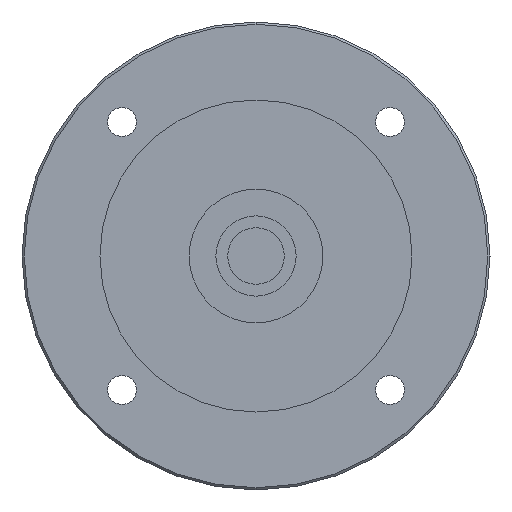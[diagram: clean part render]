
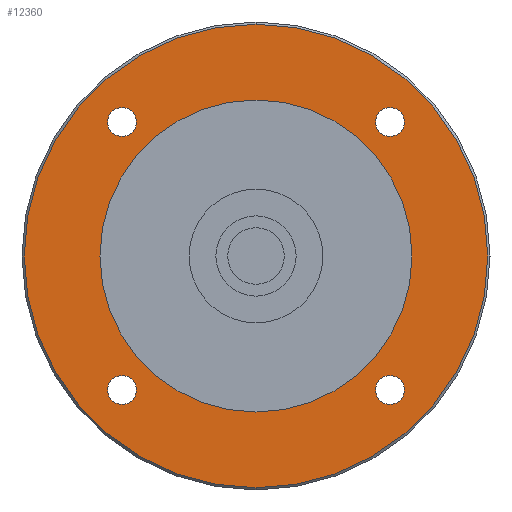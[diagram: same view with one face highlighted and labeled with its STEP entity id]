
A CAD part, left-side view. The second image highlights one B-rep face of the part: STEP entity #12360.
In plain terms, the highlighted planar face has unit normal (-1, 0, 0) as drawn and (0, 0, -1) by its records, which use the part's own axes.
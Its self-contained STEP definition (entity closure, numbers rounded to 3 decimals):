
#11060=CARTESIAN_POINT('',(0.,-35.,-35.5));
#11070=VERTEX_POINT('',#11060);
#11100=CARTESIAN_POINT('',(0.,0.,
-35.5));
#11110=DIRECTION('',(0.,0.,1.));
#11120=DIRECTION('',(1.,0.,0.));
#11130=AXIS2_PLACEMENT_3D('',#11100,#11110,#11120);
#11140=CIRCLE('',#11130,35.);
#11150=CARTESIAN_POINT('',(35.,0.,-35.5));
#11160=VERTEX_POINT('',#11150);
#11170=EDGE_CURVE('',#11070,#11160,#11140,.T.);
#11190=CARTESIAN_POINT('',(0.,35.,-35.5));
#11200=VERTEX_POINT('',#11190);
#11210=EDGE_CURVE('',#11160,#11200,#11140,.T.);
#11340=CARTESIAN_POINT('',(0.,0.,
-35.5));
#11350=DIRECTION('',(0.,0.,-1.));
#11360=DIRECTION('',(0.,-1.,0.));
#11370=AXIS2_PLACEMENT_3D('',#11340,#11350,#11360);
#11380=PLANE('',#11370);
#11390=CARTESIAN_POINT('',(0.,0.,
-35.5));
#11400=DIRECTION('',(0.,0.,-1.));
#11410=DIRECTION('',(0.,-1.,0.));
#11420=AXIS2_PLACEMENT_3D('',#11390,#11400,#11410);
#11430=CIRCLE('',#11420,52.);
#11440=CARTESIAN_POINT('',(0.,-52.,-35.5));
#11450=VERTEX_POINT('',#11440);
#11460=CARTESIAN_POINT('',(0.,52.,-35.5));
#11470=VERTEX_POINT('',#11460);
#11480=EDGE_CURVE('',#11450,#11470,#11430,.T.);
#11490=ORIENTED_EDGE('',*,*,#11480,.T.);
#11500=EDGE_CURVE('',#11470,#11450,#11430,.T.);
#11510=ORIENTED_EDGE('',*,*,#11500,.T.);
#11520=EDGE_LOOP('',(#11510,#11490));
#11530=FACE_OUTER_BOUND('',#11520,.T.);
#11540=CARTESIAN_POINT('',(30.052,-30.052,-35.5));
#11550=DIRECTION('',(0.,0.,-1.));
#11560=DIRECTION('',(1.,0.,0.));
#11570=AXIS2_PLACEMENT_3D('',#11540,#11550,#11560);
#11580=CIRCLE('',#11570,3.25);
#11590=CARTESIAN_POINT('',(33.302,-30.052,-35.5));
#11600=VERTEX_POINT('',#11590);
#11610=CARTESIAN_POINT('',(30.052,-33.302,-35.5));
#11620=VERTEX_POINT('',#11610);
#11630=EDGE_CURVE('',#11600,#11620,#11580,.T.);
#11640=ORIENTED_EDGE('',*,*,#11630,.F.);
#11650=CARTESIAN_POINT('',(30.052,-26.802,-35.5));
#11660=VERTEX_POINT('',#11650);
#11670=EDGE_CURVE('',#11620,#11660,#11580,.T.);
#11680=ORIENTED_EDGE('',*,*,#11670,.F.);
#11690=EDGE_CURVE('',#11660,#11600,#11580,.T.);
#11700=ORIENTED_EDGE('',*,*,#11690,.F.);
#11710=EDGE_LOOP('',(#11700,#11680,#11640));
#11720=FACE_BOUND('',#11710,.T.);
#11730=CARTESIAN_POINT('',(30.052,30.052,-35.5));
#11740=DIRECTION('',(0.,0.,-1.));
#11750=DIRECTION('',(1.,0.,0.));
#11760=AXIS2_PLACEMENT_3D('',#11730,#11740,#11750);
#11770=CIRCLE('',#11760,3.25);
#11780=CARTESIAN_POINT('',(33.302,30.052,-35.5));
#11790=VERTEX_POINT('',#11780);
#11800=CARTESIAN_POINT('',(30.052,26.802,-35.5));
#11810=VERTEX_POINT('',#11800);
#11820=EDGE_CURVE('',#11790,#11810,#11770,.T.);
#11830=ORIENTED_EDGE('',*,*,#11820,.F.);
#11840=CARTESIAN_POINT('',(30.052,33.302,-35.5));
#11850=VERTEX_POINT('',#11840);
#11860=EDGE_CURVE('',#11810,#11850,#11770,.T.);
#11870=ORIENTED_EDGE('',*,*,#11860,.F.);
#11880=EDGE_CURVE('',#11850,#11790,#11770,.T.);
#11890=ORIENTED_EDGE('',*,*,#11880,.F.);
#11900=EDGE_LOOP('',(#11890,#11870,#11830));
#11910=FACE_BOUND('',#11900,.T.);
#11920=CARTESIAN_POINT('',(-30.052,30.052,-35.5));
#11930=DIRECTION('',(0.,0.,-1.));
#11940=DIRECTION('',(1.,0.,0.));
#11950=AXIS2_PLACEMENT_3D('',#11920,#11930,#11940);
#11960=CIRCLE('',#11950,3.25);
#11970=CARTESIAN_POINT('',(-26.802,30.052,-35.5));
#11980=VERTEX_POINT('',#11970);
#11990=CARTESIAN_POINT('',(-30.052,26.802,-35.5));
#12000=VERTEX_POINT('',#11990);
#12010=EDGE_CURVE('',#11980,#12000,#11960,.T.);
#12020=ORIENTED_EDGE('',*,*,#12010,.F.);
#12030=CARTESIAN_POINT('',(-30.052,33.302,-35.5));
#12040=VERTEX_POINT('',#12030);
#12050=EDGE_CURVE('',#12000,#12040,#11960,.T.);
#12060=ORIENTED_EDGE('',*,*,#12050,.F.);
#12070=EDGE_CURVE('',#12040,#11980,#11960,.T.);
#12080=ORIENTED_EDGE('',*,*,#12070,.F.);
#12090=EDGE_LOOP('',(#12080,#12060,#12020));
#12100=FACE_BOUND('',#12090,.T.);
#12110=CARTESIAN_POINT('',(-30.052,-30.052,-35.5));
#12120=DIRECTION('',(0.,0.,-1.));
#12130=DIRECTION('',(1.,0.,0.));
#12140=AXIS2_PLACEMENT_3D('',#12110,#12120,#12130);
#12150=CIRCLE('',#12140,3.25);
#12160=CARTESIAN_POINT('',(-26.802,-30.052,-35.5));
#12170=VERTEX_POINT('',#12160);
#12180=CARTESIAN_POINT('',(-30.052,-33.302,-35.5));
#12190=VERTEX_POINT('',#12180);
#12200=EDGE_CURVE('',#12170,#12190,#12150,.T.);
#12210=ORIENTED_EDGE('',*,*,#12200,.F.);
#12220=CARTESIAN_POINT('',(-30.052,-26.802,-35.5));
#12230=VERTEX_POINT('',#12220);
#12240=EDGE_CURVE('',#12190,#12230,#12150,.T.);
#12250=ORIENTED_EDGE('',*,*,#12240,.F.);
#12260=EDGE_CURVE('',#12230,#12170,#12150,.T.);
#12270=ORIENTED_EDGE('',*,*,#12260,.F.);
#12280=EDGE_LOOP('',(#12270,#12250,#12210));
#12290=FACE_BOUND('',#12280,.T.);
#12300=EDGE_CURVE('',#11200,#11070,#11140,.T.);
#12310=ORIENTED_EDGE('',*,*,#12300,.T.);
#12320=ORIENTED_EDGE('',*,*,#11210,.T.);
#12330=ORIENTED_EDGE('',*,*,#11170,.T.);
#12340=EDGE_LOOP('',(#12330,#12320,#12310));
#12350=FACE_BOUND('',#12340,.T.);
#12360=ADVANCED_FACE('',(#11530,#11720,#11910,#12100,#12290,#12350),
#11380,.T.);
